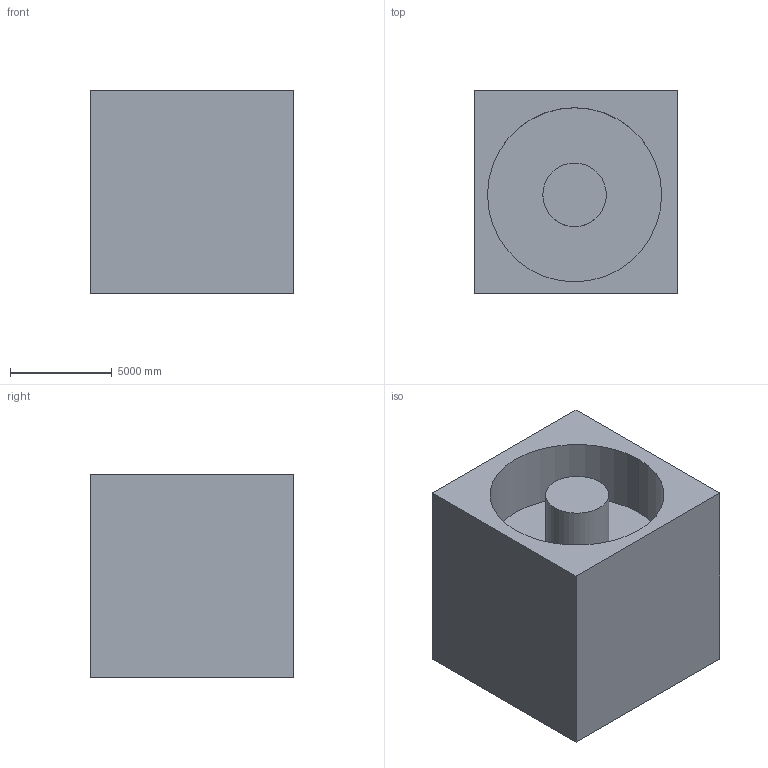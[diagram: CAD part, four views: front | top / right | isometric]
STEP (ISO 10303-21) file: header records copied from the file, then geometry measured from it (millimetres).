
FILE_DESCRIPTION (( 'STEP AP203' ), '1' );
FILE_NAME ('1004.STEP', '2022-08-18T12:23:16', ( 'user' ), ( '' ), 'SwSTEP 2.0', 'SolidWorks 2021', '' );
FILE_SCHEMA (( 'CONFIG_CONTROL_DESIGN' ));
Length unit declared in the file: centimetre
Products named in the file (1): 1004
Bounding box: 10000 x 10000 x 10000 mm (x, y, z)
Volume: 629622432635.8 mm3; surface area: 765772011.5 mm2
Topology: 1 solids, 1 shells, 16 faces, 36 edges, 24 vertices
Faces by surface type: plane 12, cylinder 4
Entity records: 525 total; most frequent: DIRECTION 78, CARTESIAN_POINT 77, ORIENTED_EDGE 72, EDGE_CURVE 36, VECTOR 28, LINE 28, AXIS2_PLACEMENT_3D 25, VERTEX_POINT 24
